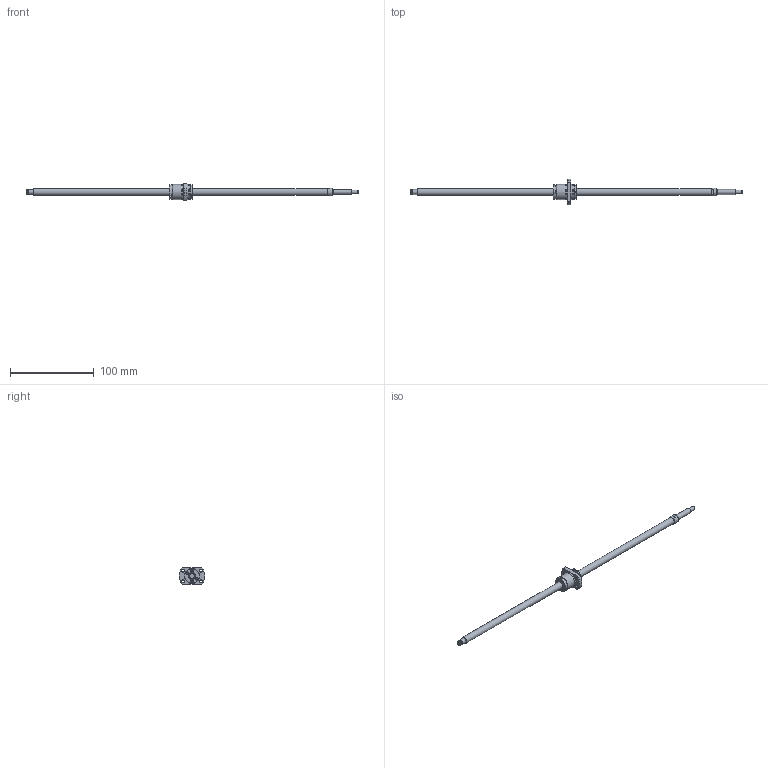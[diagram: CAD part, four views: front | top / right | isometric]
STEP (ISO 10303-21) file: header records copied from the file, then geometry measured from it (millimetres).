
FILE_DESCRIPTION(/* description */ ('STEP AP214'),/* implementation_level */ '2;1');
FILE_NAME(/* name */ 'SRT0812-347R397C7B0X(162.5Processing)',/* time_stamp */ '2026-08-04T20:06:15+02:00',/* author */ ('License CC BY-ND 4.0'),/* organization */ ('CADENAS'),/* preprocessor_version */ 'ST-DEVELOPER v20',/* originating_system */ 'PARTsolutions',/* authorisation */ ' ');
FILE_SCHEMA (('AUTOMOTIVE_DESIGN {1 0 10303 214 3 1 1}'));
Length unit declared in the file: millimetre
Products named in the file (3): SRT0812-347R397C7B0X(162.5Processing); SRT0812-347R430BCt7Processing50Shaft; SRT0812Nut
Assembly tree (2 placements, depth 2):
  SRT0812-347R397C7B0X(162.5Processing)
    SRT0812-347R430BCt7Processing50Shaft
    SRT0812Nut
Bounding box: 397 x 30.91 x 20 mm (x, y, z)
Volume: 25544.8 mm3; surface area: 13556.5 mm2
Topology: 2 solids, 2 shells, 156 faces, 367 edges, 241 vertices
Faces by surface type: plane 106, cylinder 39, cone 10, torus 1
Full cylindrical faces by diameter (mm): 3 x8, 3.4 x4, 4.5 x1, 5.7 x1, 6 x3, 8 x2, 9.5 x1, 17.5 x1, 17.7 x2, 18 x2
Entity records: 4387 total; most frequent: CARTESIAN_POINT 755, DIRECTION 742, ORIENTED_EDGE 666, EDGE_CURVE 333, AXIS2_PLACEMENT_3D 258, VERTEX_POINT 239, LINE 226, VECTOR 226
